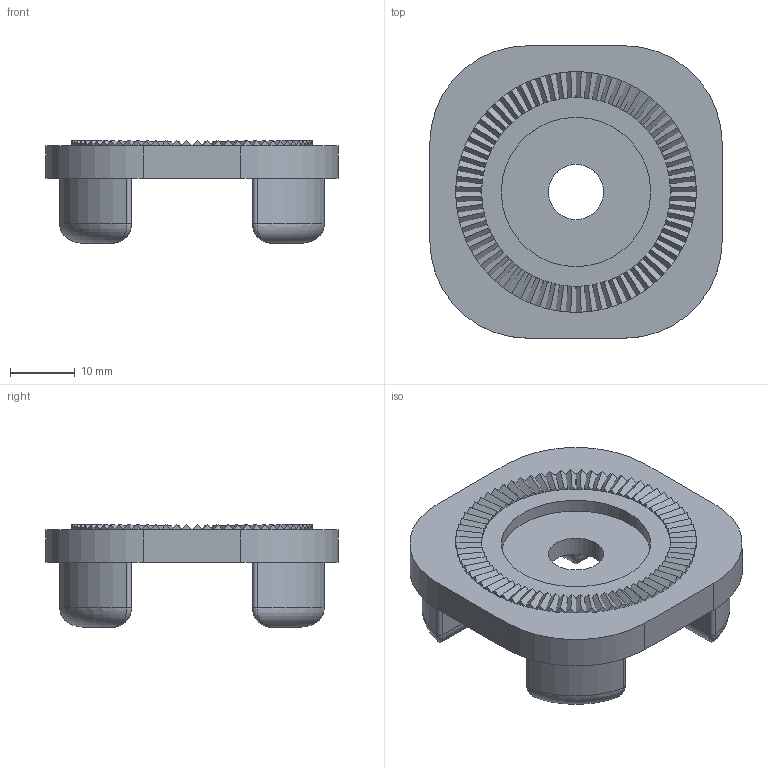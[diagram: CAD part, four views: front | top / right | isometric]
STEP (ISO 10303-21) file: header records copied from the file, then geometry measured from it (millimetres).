
FILE_DESCRIPTION (( 'STEP AP203' ), '1' );
FILE_NAME ('800.029.103B.STEP', '2013-01-21T10:40:43', ( '' ), ( '' ), 'SwSTEP 2.0', 'SolidWorks 2011', '' );
FILE_SCHEMA (( 'CONFIG_CONTROL_DESIGN' ));
Length unit declared in the file: millimetre
Products named in the file (1): 800.029.103B
Bounding box: 45 x 45 x 15.8 mm (x, y, z)
Volume: 11699.4 mm3; surface area: 7022.6 mm2
Topology: 73 solids, 73 shells, 429 faces, 810 edges, 520 vertices
Faces by surface type: plane 379, cylinder 34, bspline 12, torus 4
Entity records: 11113 total; most frequent: CARTESIAN_POINT 2608, DIRECTION 1666, ORIENTED_EDGE 1596, EDGE_CURVE 798, VECTOR 718, LINE 718, VERTEX_POINT 520, AXIS2_PLACEMENT_3D 474
